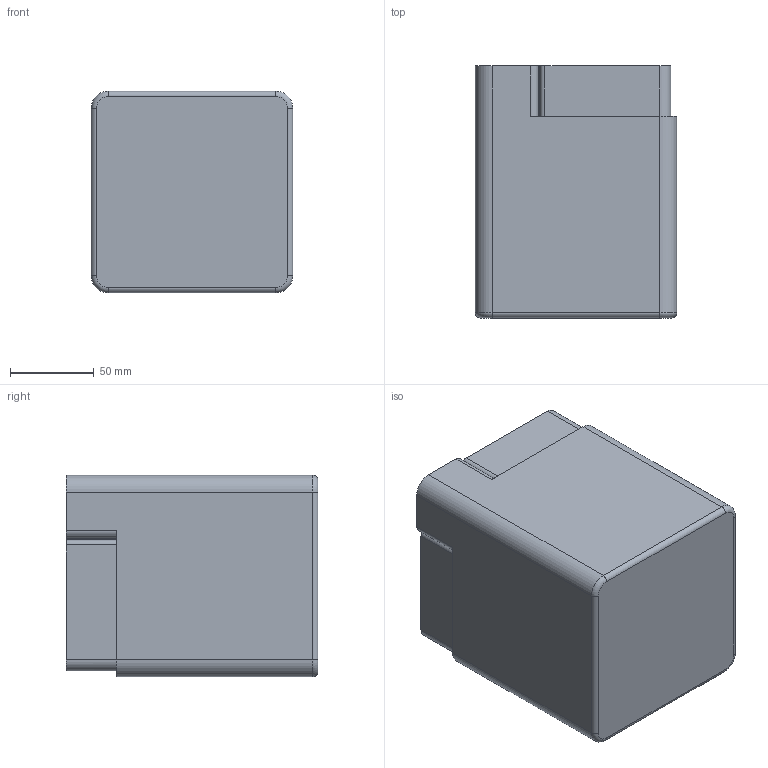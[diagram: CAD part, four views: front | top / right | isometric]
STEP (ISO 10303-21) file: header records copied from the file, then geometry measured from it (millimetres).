
FILE_DESCRIPTION(/* description */ (''),/* implementation_level */ '2;1');
FILE_NAME(/* name */ 'Pot v5.step',/* time_stamp */ '2023-12-26T02:14:16+04:00',/* author */ (''),/* organization */ (''),/* preprocessor_version */ 'ST-DEVELOPER v20',/* originating_system */ 'Autodesk Translation Framework v12.14.0.127',/* authorisation */ '');
FILE_SCHEMA (('AUTOMOTIVE_DESIGN { 1 0 10303 214 3 1 1 }'));
Length unit declared in the file: millimetre
Products named in the file (3): Pot; Lower; Upper
Assembly tree (2 placements, depth 2):
  Pot
    Lower
    Upper
Bounding box: 120 x 150 x 120 mm (x, y, z)
Volume: 308254 mm3; surface area: 273251.6 mm2
Topology: 2 solids, 2 shells, 301 faces, 865 edges, 567 vertices
Faces by surface type: cylinder 159, bspline 58, plane 52, torus 28, sphere 4
Full cylindrical faces by diameter (mm): 3.5 x75
Entity records: 27257 total; most frequent: CARTESIAN_POINT 19490, ORIENTED_EDGE 1732, DIRECTION 1329, EDGE_CURVE 866, VERTEX_POINT 569, AXIS2_PLACEMENT_3D 523, EDGE_LOOP 453, B_SPLINE_CURVE_WITH_KNOTS 308
